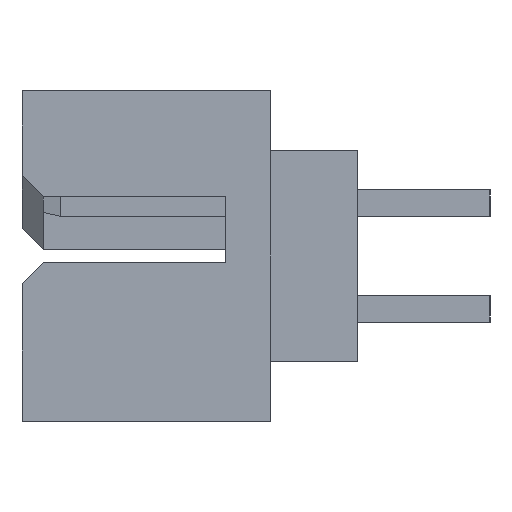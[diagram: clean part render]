
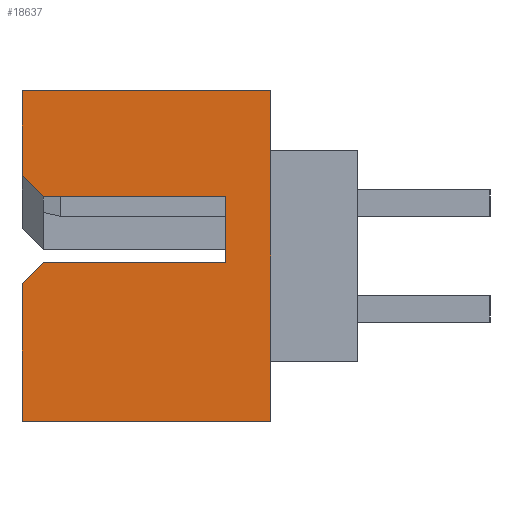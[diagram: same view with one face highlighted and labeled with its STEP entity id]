
A CAD part, left-side view. The second image highlights one B-rep face of the part: STEP entity #18637.
In plain terms, the highlighted planar face has unit normal (-1, 0, 0).
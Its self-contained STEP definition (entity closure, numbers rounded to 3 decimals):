
#42 = VERTEX_POINT ( 'NONE', #5112 ) ;
#83 = ORIENTED_EDGE ( 'NONE', *, *, #9559, .T. ) ;
#303 = EDGE_CURVE ( 'NONE', #42, #8731, #18130, .T. ) ;
#330 = LINE ( 'NONE', #16242, #7077 ) ;
#812 = LINE ( 'NONE', #909, #11806 ) ;
#909 = CARTESIAN_POINT ( 'NONE',  ( -11.202, -1.472, -0.125 ) ) ;
#940 = VERTEX_POINT ( 'NONE', #9784 ) ;
#1229 = EDGE_CURVE ( 'NONE', #10507, #12681, #330, .T. ) ;
#1304 = ORIENTED_EDGE ( 'NONE', *, *, #18174, .T. ) ;
#1631 = VERTEX_POINT ( 'NONE', #20236 ) ;
#1714 = CARTESIAN_POINT ( 'NONE',  ( -11.202, -0.782, 3.125 ) ) ;
#1727 = VECTOR ( 'NONE', #8628, 1000. ) ;
#1800 = EDGE_CURVE ( 'NONE', #9679, #12681, #19373, .T. ) ;
#2001 = ORIENTED_EDGE ( 'NONE', *, *, #5779, .T. ) ;
#2246 = VERTEX_POINT ( 'NONE', #16525 ) ;
#3187 = DIRECTION ( 'NONE',  ( 0., 1., 0. ) ) ;
#3203 = ORIENTED_EDGE ( 'NONE', *, *, #1800, .T. ) ;
#3837 = CARTESIAN_POINT ( 'NONE',  ( -11.202, 3.918, 3.125 ) ) ;
#3999 = VECTOR ( 'NONE', #10286, 1000. ) ;
#4016 = CARTESIAN_POINT ( 'NONE',  ( -11.202, 3.518, -0.125 ) ) ;
#5112 = CARTESIAN_POINT ( 'NONE',  ( -11.202, 3.918, 3.125 ) ) ;
#5727 = ORIENTED_EDGE ( 'NONE', *, *, #15402, .T. ) ;
#5755 = EDGE_CURVE ( 'NONE', #2246, #8731, #10444, .T. ) ;
#5779 = EDGE_CURVE ( 'NONE', #15249, #1631, #812, .T. ) ;
#5801 = CARTESIAN_POINT ( 'NONE',  ( -11.202, 3.918, 3.125 ) ) ;
#6533 = ORIENTED_EDGE ( 'NONE', *, *, #6709, .T. ) ;
#6709 = EDGE_CURVE ( 'NONE', #42, #9679, #16759, .T. ) ;
#6999 = CARTESIAN_POINT ( 'NONE',  ( -11.202, 3.518, 1.125 ) ) ;
#7077 = VECTOR ( 'NONE', #13168, 1000. ) ;
#7212 = DIRECTION ( 'NONE',  ( 0., -0.707, -0.707 ) ) ;
#7473 = CARTESIAN_POINT ( 'NONE',  ( -11.202, 3.918, -3.125 ) ) ;
#7649 = LINE ( 'NONE', #20017, #9313 ) ;
#7804 = CARTESIAN_POINT ( 'NONE',  ( -11.202, 3.918, 3.125 ) ) ;
#8628 = DIRECTION ( 'NONE',  ( 0., -1., 0. ) ) ;
#8731 = VERTEX_POINT ( 'NONE', #1714 ) ;
#8795 = AXIS2_PLACEMENT_3D ( 'NONE', #17590, #9433, #3187 ) ;
#8813 = DIRECTION ( 'NONE',  ( 0., 0.707, -0.707 ) ) ;
#9046 = EDGE_CURVE ( 'NONE', #1631, #940, #11800, .T. ) ;
#9197 = ORIENTED_EDGE ( 'NONE', *, *, #303, .F. ) ;
#9313 = VECTOR ( 'NONE', #16818, 1000. ) ;
#9433 = DIRECTION ( 'NONE',  ( 1., 0., 0. ) ) ;
#9527 = PLANE ( 'NONE',  #8795 ) ;
#9559 = EDGE_CURVE ( 'NONE', #10507, #15249, #7649, .T. ) ;
#9679 = VERTEX_POINT ( 'NONE', #16894 ) ;
#9738 = VECTOR ( 'NONE', #7212, 1000. ) ;
#9784 = CARTESIAN_POINT ( 'NONE',  ( -11.202, 3.918, -0.525 ) ) ;
#10286 = DIRECTION ( 'NONE',  ( 0., -1., 0. ) ) ;
#10444 = LINE ( 'NONE', #12012, #18060 ) ;
#10507 = VERTEX_POINT ( 'NONE', #14027 ) ;
#10961 = VERTEX_POINT ( 'NONE', #7473 ) ;
#10992 = FACE_OUTER_BOUND ( 'NONE', #20209, .T. ) ;
#11126 = ORIENTED_EDGE ( 'NONE', *, *, #9046, .T. ) ;
#11397 = LINE ( 'NONE', #13264, #1727 ) ;
#11800 = LINE ( 'NONE', #4016, #17593 ) ;
#11806 = VECTOR ( 'NONE', #11906, 1000. ) ;
#11906 = DIRECTION ( 'NONE',  ( 0., 1., 0. ) ) ;
#12012 = CARTESIAN_POINT ( 'NONE',  ( -11.202, -0.782, -3.125 ) ) ;
#12557 = LINE ( 'NONE', #7804, #17982 ) ;
#12681 = VERTEX_POINT ( 'NONE', #17269 ) ;
#13168 = DIRECTION ( 'NONE',  ( 0., 1., 0. ) ) ;
#13264 = CARTESIAN_POINT ( 'NONE',  ( -11.202, 3.918, -3.125 ) ) ;
#14027 = CARTESIAN_POINT ( 'NONE',  ( -11.202, 0.068, 1.125 ) ) ;
#14092 = DIRECTION ( 'NONE',  ( 0., 0., -1. ) ) ;
#14809 = VECTOR ( 'NONE', #20174, 1000. ) ;
#15249 = VERTEX_POINT ( 'NONE', #15653 ) ;
#15402 = EDGE_CURVE ( 'NONE', #10961, #2246, #11397, .T. ) ;
#15653 = CARTESIAN_POINT ( 'NONE',  ( -11.202, 0.068, -0.125 ) ) ;
#15832 = ORIENTED_EDGE ( 'NONE', *, *, #5755, .T. ) ;
#16242 = CARTESIAN_POINT ( 'NONE',  ( -11.202, -1.472, 1.125 ) ) ;
#16525 = CARTESIAN_POINT ( 'NONE',  ( -11.202, -0.782, -3.125 ) ) ;
#16759 = LINE ( 'NONE', #5801, #14809 ) ;
#16818 = DIRECTION ( 'NONE',  ( 0., 0., -1. ) ) ;
#16894 = CARTESIAN_POINT ( 'NONE',  ( -11.202, 3.918, 1.525 ) ) ;
#17219 = DIRECTION ( 'NONE',  ( 0., 0., 1. ) ) ;
#17269 = CARTESIAN_POINT ( 'NONE',  ( -11.202, 3.518, 1.125 ) ) ;
#17590 = CARTESIAN_POINT ( 'NONE',  ( -11.202, 3.918, 3.125 ) ) ;
#17593 = VECTOR ( 'NONE', #8813, 1000. ) ;
#17982 = VECTOR ( 'NONE', #14092, 1000. ) ;
#18060 = VECTOR ( 'NONE', #17219, 1000. ) ;
#18130 = LINE ( 'NONE', #3837, #3999 ) ;
#18174 = EDGE_CURVE ( 'NONE', #940, #10961, #12557, .T. ) ;
#18637 = ADVANCED_FACE ( 'NONE', ( #10992 ), #9527, .F. ) ;
#19373 = LINE ( 'NONE', #6999, #9738 ) ;
#20017 = CARTESIAN_POINT ( 'NONE',  ( -11.202, 0.068, -0.125 ) ) ;
#20106 = ORIENTED_EDGE ( 'NONE', *, *, #1229, .F. ) ;
#20174 = DIRECTION ( 'NONE',  ( 0., 0., -1. ) ) ;
#20209 = EDGE_LOOP ( 'NONE', ( #6533, #3203, #20106, #83, #2001, #11126, #1304, #5727, #15832, #9197 ) ) ;
#20236 = CARTESIAN_POINT ( 'NONE',  ( -11.202, 3.518, -0.125 ) ) ;
